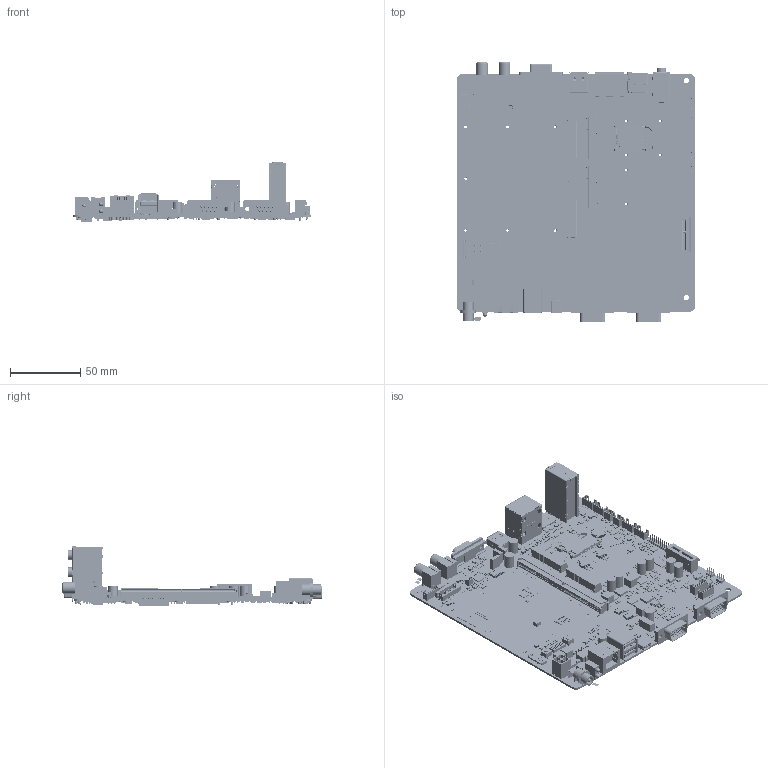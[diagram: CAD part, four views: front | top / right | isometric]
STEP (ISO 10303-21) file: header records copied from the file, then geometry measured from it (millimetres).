
FILE_DESCRIPTION((''),'2;1');
FILE_NAME('REV-SA02_E1907REV202RO_A02_2016_ASM','2016-06-24T',('odelia_chen'),(''),'CREO PARAMETRIC BY PTC INC, 2015200','CREO PARAMETRIC BY PTC INC, 2015200','');
FILE_SCHEMA(('AUTOMOTIVE_DESIGN { 1 0 10303 214 1 1 1 1 }'));
Products named in the file (110): SOIC_14P_50_341X236; A-XQFN_8P_16_55X47_H20; A-QFN_14P_20_138X138_TP81V4; HD_3X1P_100_D_PRX; R0402; A-SOIC_8P_20_79X122; FCC-B; A-BGA_169P_20_709X551_H38; A-QFN_42P_20_354X138_TPV14; A-BGA_49P_20_142X157; QFP_48P_20_354X354; A-BB_40P_20_QSH-020-01-L-D; A-QFN_40P_16_197X197_TP138; QFN_36P_20_236X236_TP146; QFN_24P_20_157X157_TP96; A-QFN_24P_20_157X157_TP96; A-QFN_32P_20_197X197_TP142; TRANS_24P_39_GTX-GB012; QFN_16P_20_118X118_TP57V5; A-QFN_10P_20_S118_T94X65V5; SOIC_16P_26_244X307; A-QFN_16P_16_102X71; A-PQFN_8P_50_FDMS7608S; A-QFN_8P_20_79X79_TP63X39V2; UTLP_10P_20_98X40; SOIC_10P_20_118X193; A-SO8-PWRPAK; PQFN_8P_50_197X236_IRFH5210; A-H4P85I8_NBS; A-SOIC_8P_50_275X236; A-SOIC_8P_50_197X244; SOIC_8P_50_193X236; A-SOIC_8P_50_208X311; A-8P4R04; SOT-457; HD_3X2P_79_D_PRX; A-SOT-363_H43; SC70_6P; A-SOT-23_5P_H57; SOT-23_5P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
Assembly tree (1276 placements, depth 3):
  REV-SA02_E1907REV202RO_A02_2016_ASM
    SOIC_14P_50_341X236
    A-XQFN_8P_16_55X47_H20
    A-QFN_14P_20_138X138_TP81V4  x2
    HD_3X1P_100_D_PRX  x3
    R0402  x4
    A-SOIC_8P_20_79X122  x3
    FCC-B
    A-BGA_169P_20_709X551_H38
    A-QFN_42P_20_354X138_TPV14  x2
    A-BGA_49P_20_142X157
    QFP_48P_20_354X354
    A-BB_40P_20_QSH-020-01-L-D
    A-QFN_40P_16_197X197_TP138
    QFN_36P_20_236X236_TP146
    QFN_24P_20_157X157_TP96
    A-QFN_24P_20_157X157_TP96
    A-QFN_32P_20_197X197_TP142
    TRANS_24P_39_GTX-GB012
    QFN_16P_20_118X118_TP57V5  x2
    A-QFN_10P_20_S118_T94X65V5  x2
    SOIC_16P_26_244X307  x2
    A-QFN_16P_16_102X71  x7
    A-PQFN_8P_50_FDMS7608S  x2
    A-QFN_8P_20_79X79_TP63X39V2  x2
    UTLP_10P_20_98X40  x5
    SOIC_10P_20_118X193
    A-SO8-PWRPAK  x2
    PQFN_8P_50_197X236_IRFH5210  x2
    A-H4P85I8_NBS  x2
    A-SOIC_8P_50_275X236
    A-SOIC_8P_50_197X244  x2
    SOIC_8P_50_193X236  x7
    A-SOIC_8P_50_208X311  x2
    A-8P4R04
    SOT-457  x9
    HD_3X2P_79_D_PRX  x2
    A-SOT-363_H43  x15
    SC70_6P  x3
    A-SOT-23_5P_H57  x9
    SOT-23_5P  x8
    A-SC70_5P_H43
    WF_5P_79_BOX_D_1192-700-05S
    SOT-223  x2
    A-R0603_4P2R  x7
    A-XTAL_4P_91_126X98
    SOT-143
    XTAL_4P_77_126X98
    L_4P_74_79X55  x18
    SOT-23  x9
    A-SOT-23_H48  x13
    A-SOT-23_H43
    R2512  x4
    A-R0402  x415
    A-R1206  x3
    A-R0603  x20
    A-L_2P_238_291X268_H71  x3
    A-C0603  x78
    A-L0603  x41
    A-FUSE_2P_118_134X71_H28  x6
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Bounding box: 170 x 185.3 x 42.64 mm (x, y, z)
Volume: 91301.5 mm3; surface area: 139642.4 mm2
Topology: 1329 solids, 1347 shells, 34674 faces, 91133 edges, 59995 vertices
Faces by surface type: plane 29395, cylinder 4752, bspline 303, cone 94, torus 84, extrusion 32, sphere 12, revolution 2
Entity records: 991805 total; most frequent: CARTESIAN_POINT 160115, ORIENTED_EDGE 138706, DIRECTION 129408, EDGE_CURVE 69367, VECTOR 59056, LINE 59028, VERTEX_POINT 45600, PRESENTATION_STYLE_ASSIGNMENT 38326
